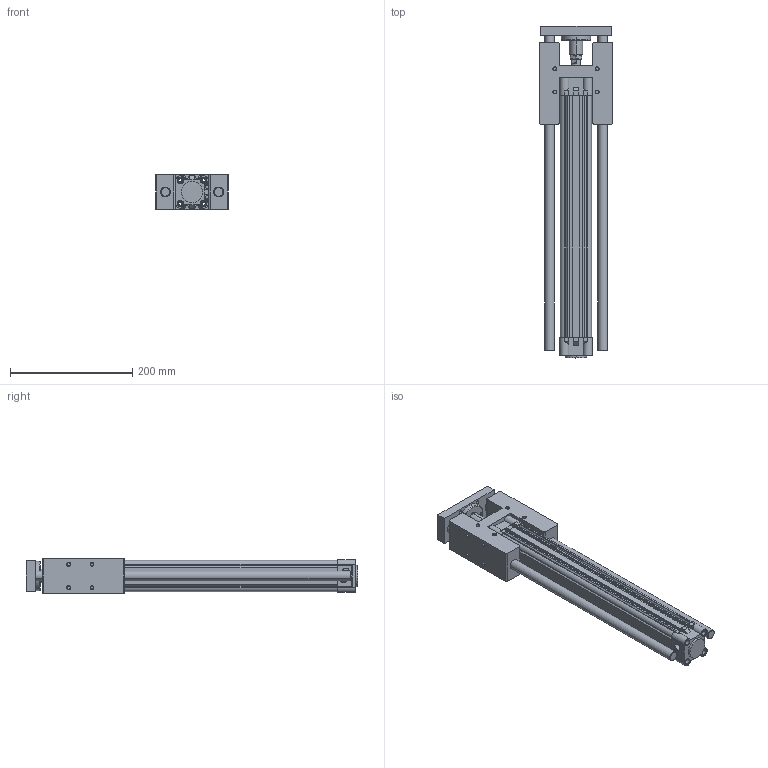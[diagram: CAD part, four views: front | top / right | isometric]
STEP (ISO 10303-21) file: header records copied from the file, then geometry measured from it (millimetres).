
FILE_DESCRIPTION (( 'STEP AP203' ), '1' );
FILE_NAME ('KDNC40X350H-YATAK.STEP', '2016-04-26T07:45:20', ( 'user' ), ( '' ), 'SwSTEP 2.0', 'SolidWorks 2013', '' );
FILE_SCHEMA (( 'CONFIG_CONTROL_DESIGN' ));
Length unit declared in the file: millimetre
Products named in the file (11): PÝSTON MÝLÝ 40X350; DNC-H-YATAK MÝL YATAÐI 40; DNC-H-YATAK 40; SOMUN 40; DNC-H-YATAK M尳 40X350; KDNC40X350H-YATAK; DNC-H-YATAK TABLA 40; ARKA KAPAK 40; KDNC 40x350 BORU; ORTA PÝSTON 40; 烰 KAPAK  40
Assembly tree (11 placements, depth 2):
  KDNC40X350H-YATAK
    DNC-H-YATAK 40
    DNC-H-YATAK M尳 40X350  x2
    DNC-H-YATAK TABLA 40
    ARKA KAPAK 40
    KDNC 40x350 BORU
    ORTA PÝSTON 40
    烰 KAPAK  40
    PÝSTON MÝLÝ 40X350
    DNC-H-YATAK MÝL YATAÐI 40
    SOMUN 40
Bounding box: 119 x 543 x 56 mm (x, y, z)
Volume: 1413592.1 mm3; surface area: 427995.9 mm2
Topology: 11 solids, 11 shells, 899 faces, 2228 edges, 1422 vertices
Faces by surface type: cylinder 390, plane 306, cone 137, bspline 48, torus 18
Entity records: 32580 total; most frequent: CARTESIAN_POINT 10530, ORIENTED_EDGE 4404, DIRECTION 4228, EDGE_CURVE 2202, AXIS2_PLACEMENT_3D 1605, VERTEX_POINT 1414, EDGE_LOOP 1054, VECTOR 1018
